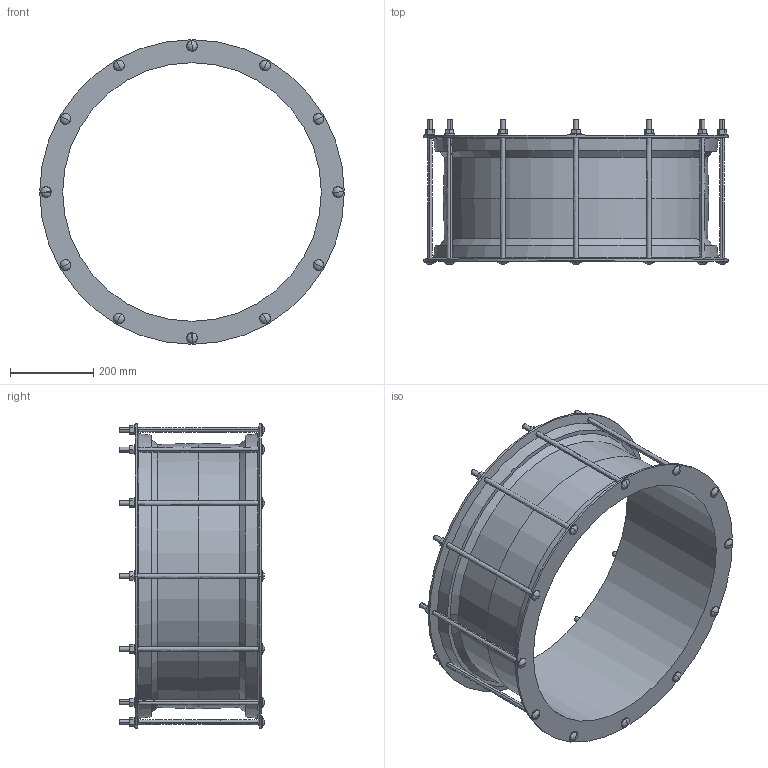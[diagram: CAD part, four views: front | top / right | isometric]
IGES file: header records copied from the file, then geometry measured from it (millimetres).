
Start section:  PTC IGES file: 601_618.igs
Global section: file name: 601_618.igs; native system: Creo Parametric by PTC Inc.; preprocessor: 2016130; author: mfairey; organization: Unknown; date: 20181218.144138; units: millimetre
Bounding box: 730 x 348 x 730 mm (x, y, z)
Surface area: 1742600.6 mm2 (no closed solid volume)
Topology: 0 solids, 0 shells, 254 faces, 1208 edges, 1184 vertices
Faces by surface type: revolution 142, bspline 112
